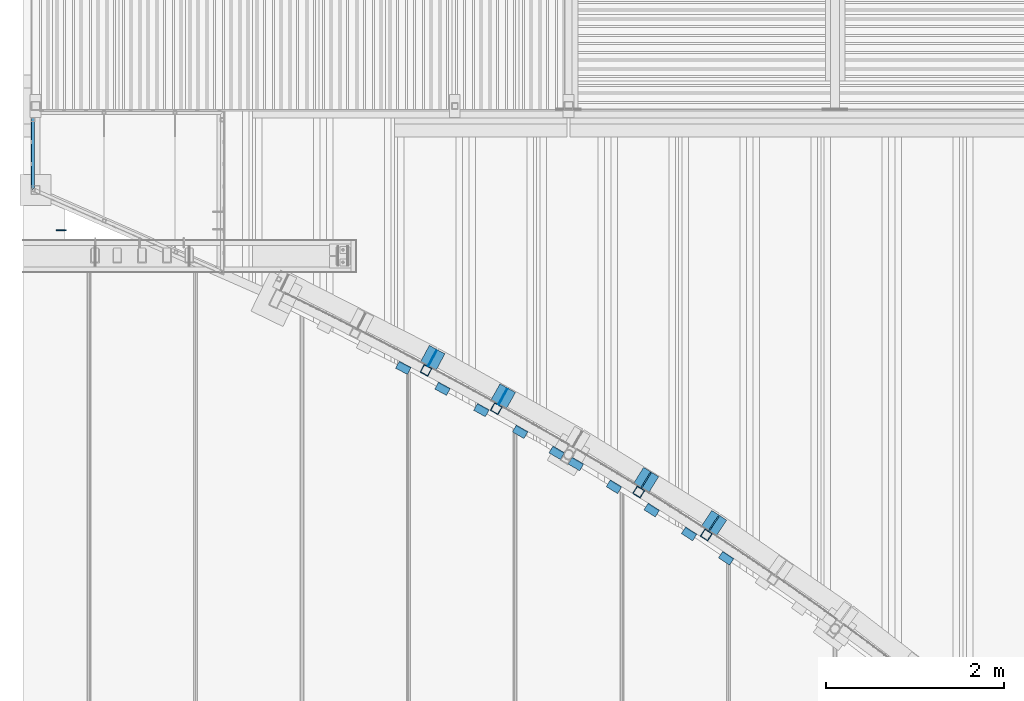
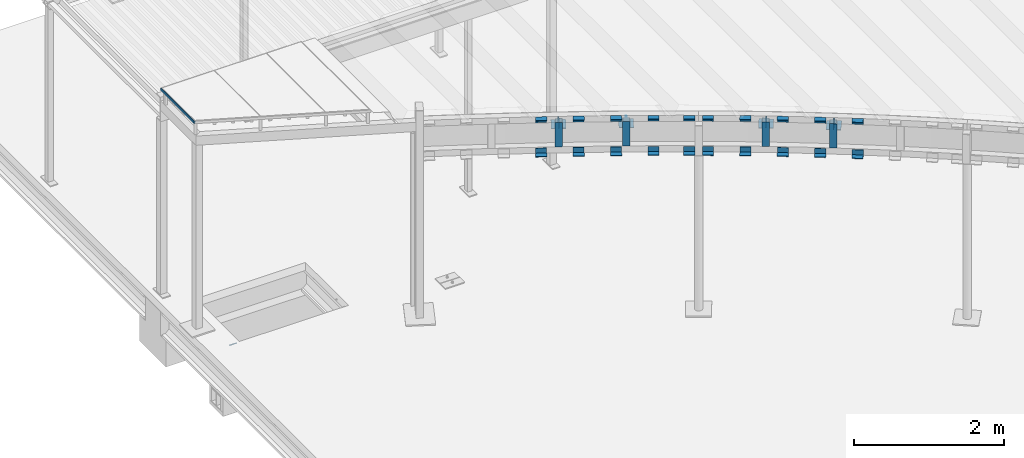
# One storey, part 27 of 98: 34 beams.
"""IFC2X3 building model written with IfcOpenShell, lengths in millimetres."""

from ifc_helpers import new_model, entity, si_unit, converted_unit, derived_unit, direction, frame, origin_with_axes, place, context, subcontext, project, spatial, faceted_brep, material, type_object, element, save


model = new_model("IFC2X3")

# Units and contexts
model_context = context("Model", 3, precision=0.01, world=frame((0.0, 4.29681676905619e-09, 0.0)), true_north=direction((4.01073788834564e-13, 1.0)))
plan_context = context("Plan", 3, precision=0.01, world=frame((0.0, 4.29681676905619e-09, 0.0)), true_north=direction((4.01073788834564e-13, 1.0)))
body_context = subcontext(model_context, "Body", "Model", "MODEL_VIEW")
ifc_project = project(units=[converted_unit("PLANEANGLEUNIT", "DEGREE", entity("IfcPositiveLengthMeasure", 0.0174532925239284), si_unit("PLANEANGLEUNIT", "RADIAN"), dimensions=[0, 0, 0, 0, 0, 0, 0]), si_unit("AREAUNIT", "SQUARE_METRE"), si_unit("LENGTHUNIT", "METRE", prefix="MILLI"), si_unit("MASSUNIT", "GRAM", prefix="KILO"), si_unit("POWERUNIT", "WATT"), si_unit("PRESSUREUNIT", "PASCAL"), si_unit("FORCEUNIT", "NEWTON", prefix="KILO"), si_unit("ELECTRICCURRENTUNIT", "AMPERE"), si_unit("THERMODYNAMICTEMPERATUREUNIT", "DEGREE_CELSIUS"), si_unit("TIMEUNIT", "SECOND"), si_unit("VOLUMEUNIT", "CUBIC_METRE"), derived_unit("LINEARVELOCITYUNIT", [(si_unit("LENGTHUNIT", "METRE"), 1), (si_unit("TIMEUNIT", "SECOND"), -1)]), derived_unit("VOLUMETRICFLOWRATEUNIT", [(si_unit("VOLUMEUNIT", "CUBIC_METRE"), 1), (si_unit("TIMEUNIT", "SECOND"), -1)]), derived_unit("THERMALTRANSMITTANCEUNIT", [(si_unit("POWERUNIT", "WATT"), 1), (si_unit("THERMODYNAMICTEMPERATUREUNIT", "KELVIN"), -1), (si_unit("AREAUNIT", "SQUARE_METRE"), -1)])], contexts=[model_context, plan_context])

# Site, building, storey
site_placement = place(None, frame((0.0, -4.29681676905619e-09, 0.0), z_axis=(0.0, 0.0, 1.0), x_axis=(1.0, 0.0, 0.0)))
site = spatial("IfcSite", under=ifc_project, at=site_placement, Name="Gardermoen", CompositionType="ELEMENT")
building_placement = place(site_placement, frame((0.0, 4.29681676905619e-09, 0.0), z_axis=(0.0, 0.0, 1.0), x_axis=(1.0, 0.0, 0.0)))
building = spatial("IfcBuilding", under=site, at=building_placement, Name="TS", CompositionType="ELEMENT")
storey_placement = place(building_placement, origin_with_axes())
storey = spatial("IfcBuildingStorey", under=building, at=storey_placement, Name="D", CompositionType="ELEMENT", Elevation=0.0)

# Beams
ifc_material = material(Name="STEEL/S355")
beam_type_1 = type_object("IfcBeamType", Name="PL10*200", PredefinedType="NOTDEFINED")
for number, where, z_axis, x_axis in (
    (1, (521779.215259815, 409836.632699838, 206828.0), (-0.551606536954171, -0.834104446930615, 0.0), (-0.834104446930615, 0.551606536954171, 0.0)),
    (2, (518608.659065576, 411709.678160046, 206828.0), (-0.475275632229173, -0.879836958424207, 0.0), (-0.879836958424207, 0.475275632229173, 0.0)),
    (3, (519402.591895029, 411274.300734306, 206828.0), (-0.490558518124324, -0.871408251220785, 0.0), (-0.871408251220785, 0.490558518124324, 0.0)),
    (4, (521014.20136591, 410326.157923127, 206828.0), (-0.529583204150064, -0.848257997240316, 0.0), (-0.848257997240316, 0.529583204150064, 0.0)),
):
    element("IfcBeam", number, at=place(storey_placement, frame(where, z_axis=z_axis, x_axis=x_axis)), inside=storey, type_object=beam_type_1, material=ifc_material, Name="STÅLBJELKE", ObjectType="PL10*200", context=body_context, shape_type="Brep", body=[
        faceted_brep([(0.0, -5.0, 0.0), (-0.454028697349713, -5.0, 209.566192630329), (-0.454028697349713, 5.0, 209.566192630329), (0.0, 5.0, 0.0), (199.544097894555, -5.0, 210.432800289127), (199.544097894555, 5.0, 210.432800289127), (200.0, -5.0, 0.0), (200.0, 5.0, -5.82076609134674e-11)], [[[0, 1, 2, 3]], [[1, 4, 5, 2]], [[4, 6, 7, 5]], [[6, 0, 3, 7]], [[5, 7, 3, 2]], [[6, 4, 1, 0]]]),
    ])
beam_type_2 = type_object("IfcBeamType", Name="D12", PredefinedType="NOTDEFINED")
beam_1_placement = place(storey_placement, frame((514344.989653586, 413100.000023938, 203840.0), z_axis=(9.99999902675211e-08, -0.999999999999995, 0.0), x_axis=(-0.999999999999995, -9.99999902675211e-08, 0.0)))
element("IfcBeam", 5, at=beam_1_placement, inside=storey, type_object=beam_type_2, material=ifc_material, Name="STÅLBJELKE", ObjectType="D12", context=body_context, shape_type="Brep", body=[
    faceted_brep([(-5.82076609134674e-11, -6.00000000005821, 0.0), (1.16415321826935e-10, -4.24264068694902, -4.24264068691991), (110.0, -4.24264068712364, -4.24264068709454), (110.0, -6.0, 0.0), (1.16415321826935e-10, 2.91038304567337e-10, -5.99999999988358), (110.0, 0.0, -6.0), (0.0, 4.24264068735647, -4.24264068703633), (110.0, 4.24264068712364, -4.24264068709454), (0.0, 5.99999999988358, 0.0), (110.0, 6.0, 0.0), (-2.3283064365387e-10, 4.2426406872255, 4.24264068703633), (110.0, 4.24264068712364, 4.24264068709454), (-3.49245965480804e-10, -5.82076609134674e-11, 5.99999999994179), (110.0, 0.0, 6.0), (-1.16415321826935e-10, -4.2426406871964, 4.24264068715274), (110.0, -4.24264068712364, 4.24264068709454)], [[[0, 1, 2, 3]], [[1, 4, 5, 2]], [[4, 6, 7, 5]], [[6, 8, 9, 7]], [[8, 10, 11, 9]], [[10, 12, 13, 11]], [[12, 14, 15, 13]], [[14, 0, 3, 15]], [[5, 7, 9, 11, 13, 15, 3, 2]], [[14, 12, 10, 8, 6, 4, 1, 0]]]),
])
beam_type_3 = type_object("IfcBeamType", Name="L90*9", PredefinedType="NOTDEFINED")
for number, where, z_axis, x_axis in (
    (6, (520575.773125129, 410174.849029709, 207055.0), (0.0, 0.0, -1.0), (-0.854929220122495, 0.518744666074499, 0.0)),
    (7, (520575.773125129, 410174.849029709, 206550.0), (-0.518744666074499, -0.854929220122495, 0.0), (-0.854929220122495, 0.518744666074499, 0.0)),
    (8, (519520.5947513, 410795.462637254, 207055.0), (0.0, 0.0, -1.0), (-0.869571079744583, 0.493807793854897, 0.0)),
    (9, (519520.5947513, 410795.462637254, 206550.0), (-0.493807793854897, -0.869571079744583, 0.0), (-0.869571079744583, 0.493807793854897, 0.0)),
    (10, (520147.953829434, 410431.675709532, 207055.0), (0.0, 0.0, -1.0), (-0.862141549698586, 0.506667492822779, 0.0)),
    (11, (521000.143040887, 409911.704603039, 207055.0), (0.0, 0.0, -1.0), (-0.846961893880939, 0.531653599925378, 0.0)),
    (12, (521420.760896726, 409642.507173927, 207055.0), (0.0, 0.0, -1.0), (-0.839647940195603, 0.543131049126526, 0.0)),
    (13, (521837.168688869, 409367.411559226, 207055.0), (0.0, 0.0, -1.0), (-0.831652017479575, 0.555297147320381, 0.0)),
    (14, (520147.953829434, 410431.675709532, 206550.0), (-0.506667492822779, -0.862141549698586, 0.0), (-0.862141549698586, 0.506667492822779, 0.0)),
    (15, (521000.143040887, 409911.704603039, 206550.0), (-0.531653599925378, -0.846961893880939, 0.0), (-0.846961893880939, 0.531653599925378, 0.0)),
    (16, (521420.760896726, 409642.507173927, 206550.0), (-0.543131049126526, -0.839647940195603, 0.0), (-0.839647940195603, 0.543131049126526, 0.0)),
    (17, (521837.168688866, 409367.411559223, 206550.0), (-0.555297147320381, -0.831652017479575, 0.0), (-0.831652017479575, 0.555297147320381, 0.0)),
    (18, (519085.321860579, 411040.535991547, 207055.0), (0.0, 0.0, -1.0), (-0.874651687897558, 0.484751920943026, 0.0)),
    (19, (518647.537579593, 411281.122777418, 207055.0), (0.0, 0.0, -1.0), (-0.879603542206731, 0.475707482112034, 0.0)),
    (20, (518207.293395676, 411517.174286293, 207055.0), (0.0, 0.0, -1.0), (-0.884462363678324, 0.466611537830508, 0.0)),
    (21, (519932.196322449, 410558.217842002, 207055.0), (0.0, 0.0, -1.0), (-0.864701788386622, 0.502285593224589, 0.0)),
    (22, (519932.196322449, 410558.217842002, 206550.0), (-0.502285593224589, -0.864701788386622, 0.0), (-0.864701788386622, 0.502285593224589, 0.0)),
    (23, (519085.321860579, 411040.535991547, 206550.0), (-0.484751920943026, -0.874651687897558, 0.0), (-0.874651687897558, 0.484751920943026, 0.0)),
    (24, (518647.537579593, 411281.122777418, 206550.0), (-0.475707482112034, -0.879603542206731, 0.0), (-0.879603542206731, 0.475707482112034, 0.0)),
    (25, (518207.293395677, 411517.174286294, 206550.0), (-0.466611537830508, -0.884462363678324, 0.0), (-0.884462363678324, 0.466611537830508, 0.0)),
):
    element("IfcBeam", number, at=place(storey_placement, frame(where, z_axis=z_axis, x_axis=x_axis)), inside=storey, type_object=beam_type_3, material=ifc_material, Name="STÅLBJELKE", ObjectType="L90*9", context=body_context, shape_type="Brep", body=[
        faceted_brep([(3.49245965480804e-10, 45.0, -45.0), (-3.20142135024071e-10, 45.0, 45.0), (150.176599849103, 44.999999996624, 45.0), (150.176599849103, 44.999999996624, -45.0), (6.98491930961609e-10, 36.0, 45.0000000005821), (150.176599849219, 35.999999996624, 45.0), (-4.07453626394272e-10, 36.0, -36.0000000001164), (150.176599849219, 35.999999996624, -36.0), (-5.23868948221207e-10, -45.0, -36.0000000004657), (150.176599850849, -45.0000000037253, -36.0), (3.49245965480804e-10, -45.0, -45.0), (150.176599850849, -45.0000000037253, -45.0)], [[[0, 1, 2, 3]], [[1, 4, 5, 2]], [[4, 6, 7, 5]], [[6, 8, 9, 7]], [[8, 10, 11, 9]], [[10, 0, 3, 11]], [[5, 7, 9, 11, 3, 2]], [[10, 8, 6, 4, 1, 0]]]),
    ])
beam_type_4 = type_object("IfcBeamType", Name="PL10*150", PredefinedType="NOTDEFINED")
for number, where, z_axis, x_axis in (
    (26, (521688.075778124, 409880.060069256, 206983.0), (-0.549780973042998, -0.835308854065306, 0.0), (0.0, 0.0, -1.0)),
    (27, (518514.019953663, 411744.831823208, 206983.0), (-0.473350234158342, -0.880874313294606, 0.0), (0.0, 0.0, -1.0)),
    (28, (519308.585946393, 411311.120676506, 206983.0), (-0.488615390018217, -0.872499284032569, 0.0), (0.0, 0.0, -1.0)),
    (29, (520921.993535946, 410367.243253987, 206983.0), (-0.527727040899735, -0.849414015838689, 0.0), (0.0, 0.0, -1.0)),
):
    element("IfcBeam", number, at=place(storey_placement, frame(where, z_axis=z_axis, x_axis=x_axis)), inside=storey, type_object=beam_type_4, material=ifc_material, Name="STÅLBJELKE", ObjectType="PL10*150", context=body_context, shape_type="Brep", body=[
        faceted_brep([(0.0, -5.0, 150.0), (2.91038304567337e-11, -5.0000000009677, 195.946411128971), (2.91038304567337e-11, 4.99999999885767, 195.946411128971), (0.0, 5.0, 150.0), (150.0, -5.0000000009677, 195.946411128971), (150.0, 4.99999999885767, 195.946411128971), (150.0, -4.99999999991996, 0.0), (150.0, 4.99999999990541, 1.16415321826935e-10), (99.9999999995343, -4.99999999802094, 7.21774995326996e-09), (99.9999999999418, 5.00000000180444, 6.81029632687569e-09)], [[[0, 1, 2, 3]], [[1, 4, 5, 2]], [[4, 6, 7, 5]], [[6, 8, 9, 7]], [[8, 0, 3, 9]], [[5, 7, 9, 3, 2]], [[8, 6, 4, 1, 0]]]),
    ])
beam_type_5 = type_object("IfcBeamType", Name="RHS100*6.3", PredefinedType="NOTDEFINED")
for number, where, z_axis, x_axis in (
    (30, (521550.739315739, 409671.136814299, 206605.0), (0.836764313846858, -0.547563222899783, 0.0), (0.0, 0.0, 1.0)),
    (31, (518395.721718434, 411524.568664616, 206605.0), (0.88130345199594, -0.472550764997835, 0.0), (0.0, 0.0, 1.0)),
    (32, (520790.02894435, 410154.733233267, 206605.0), (0.849892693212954, -0.526955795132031, 0.0), (0.0, 0.0, 1.0)),
    (33, (519186.46168117, 411092.955665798, 206605.0), (0.872922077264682, -0.487859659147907, 0.0), (0.0, 0.0, 1.0)),
):
    element("IfcBeam", number, at=place(storey_placement, frame(where, z_axis=z_axis, x_axis=x_axis)), inside=storey, type_object=beam_type_5, material=ifc_material, Name="STÅLBJELKE", ObjectType="RHS100*6.3", context=body_context, shape_type="Brep", body=[
        faceted_brep([(0.0, 43.6999998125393, -43.6999998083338), (0.0, -43.6999998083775, -43.6999998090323), (395.0, -43.6999998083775, -43.6999998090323), (395.0, 43.6999998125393, -43.6999998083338), (0.0, -43.6999998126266, 43.699999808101), (395.0, -43.6999998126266, 43.699999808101), (0.0, 43.6999998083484, 43.6999998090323), (395.0, 43.6999998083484, 43.6999998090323), (4.07453626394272e-10, 50.0, -50.0), (-3.49245965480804e-10, 50.0, 50.0), (394.999999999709, 50.0, 50.0), (394.999999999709, 50.0, -50.0), (-3.49245965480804e-10, -50.0, 50.0), (394.999999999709, -50.0, 50.0), (4.07453626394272e-10, -50.0, -50.0), (394.999999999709, -50.0, -50.0)], [[[0, 1, 2, 3]], [[1, 4, 5, 2]], [[4, 6, 7, 5]], [[6, 0, 3, 7]], [[8, 9, 10, 11]], [[9, 12, 13, 10]], [[12, 14, 15, 13]], [[14, 8, 11, 15]], [[13, 15, 11, 10], [5, 7, 3, 2]], [[14, 12, 9, 8], [6, 4, 1, 0]]]),
    ])
beam_type_6 = type_object("IfcBeamType", Name="L40*5", PredefinedType="NOTDEFINED")
beam_2_placement = place(storey_placement, frame((513969.99843498, 414444.979079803, 207294.999999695), z_axis=(0.999999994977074, -0.000100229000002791, 0.0), x_axis=(-0.000100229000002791, -0.999999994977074, 0.0)))
element("IfcBeam", 34, at=beam_2_placement, inside=storey, type_object=beam_type_6, material=ifc_material, Name="STÅLBJELKE", ObjectType="L40*5", context=body_context, shape_type="Brep", body=[
    faceted_brep([(0.0, 20.0, -20.0), (39.9959910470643, 20.0, 20.0000000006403), (871.797742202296, 20.0, 20.000000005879), (897.950408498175, 20.0, -19.9999999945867), (39.9959910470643, 15.0, 20.0000000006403), (871.797742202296, 15.0, 20.000000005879), (4.99949886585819, 15.0, -15.0000000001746), (894.681325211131, 15.0, -14.9999999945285), (4.99949886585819, -20.0, -15.0000000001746), (894.681325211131, -20.0, -14.9999999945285), (0.0, -20.0, -20.0), (897.950408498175, -20.0, -19.9999999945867)], [[[0, 1, 2, 3]], [[1, 4, 5, 2]], [[4, 6, 7, 5]], [[6, 8, 9, 7]], [[8, 10, 11, 9]], [[10, 0, 3, 11]], [[5, 7, 9, 11, 3, 2]], [[10, 8, 6, 4, 1, 0]]]),
])

save(model, "model.ifc")
